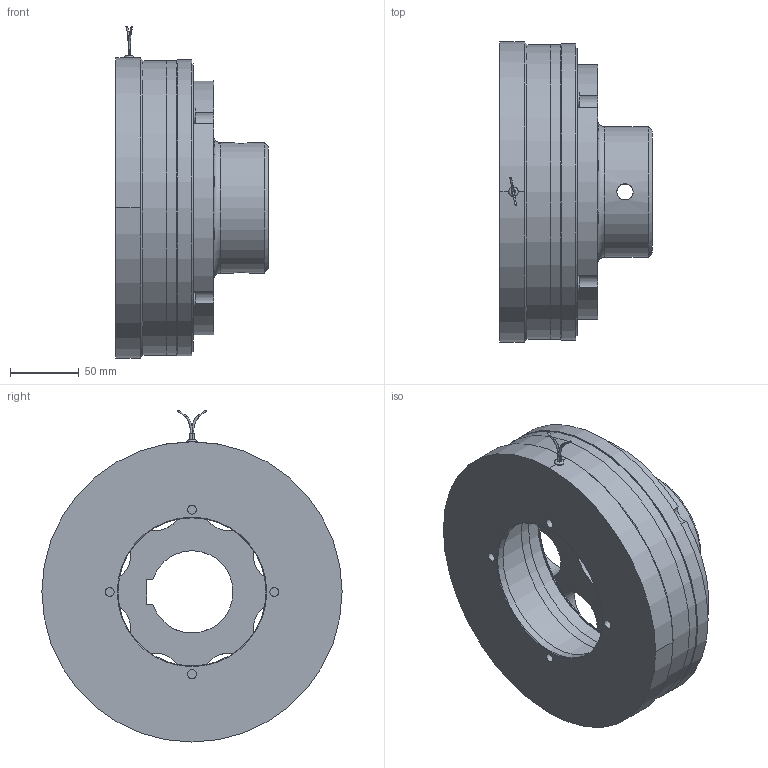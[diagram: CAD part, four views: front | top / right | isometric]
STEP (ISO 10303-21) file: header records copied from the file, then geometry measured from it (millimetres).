
FILE_DESCRIPTION(/* description */ (''),/* implementation_level */ '2;1');
FILE_NAME(/* name */ 'X:\INVENTOR\DISEGNI\08_Freni_Friz_Elettmag_Monodisco\08_28 EMFL_DF\EMFL_DF STEP\08_28_210_12 EMFL210_DF-C-ME@STEP.stp',/* time_stamp */ '2018-04-23T10:48:22+02:00',/* author */ ('stefano'),/* organization */ (''),/* preprocessor_version */ 'ST-DEVELOPER v17',/* originating_system */ 'Autodesk Inventor 2018',/* authorisation */ '');
FILE_SCHEMA (('AUTOMOTIVE_DESIGN { 1 0 10303 214 3 1 1 }'));
Length unit declared in the file: millimetre
Products named in the file (1): 08_28_210_12 EMFL210_DF-C-ME_Substitute_1
Bounding box: 111.5 x 219 x 242.22 mm (x, y, z)
Volume: 1423384.4 mm3; surface area: 310448.2 mm2
Topology: 1 solids, 1 shells, 359 faces, 1175 edges, 752 vertices
Faces by surface type: cylinder 201, plane 111, cone 35, torus 10, bspline 2
Full cylindrical faces by diameter (mm): 1.154 x2, 6.5 x4, 6.647 x4, 7 x8, 11 x8, 11.835 x2, 13 x16, 38 x8, 95 x1, 108 x1, 132 x2, 134 x1, 136 x1, 154.5 x1, 164 x2, 192 x2, 198.5 x1, 210 x1, 215 x2, 216 x1
Entity records: 14556 total; most frequent: CARTESIAN_POINT 3167, DIRECTION 2580, ORIENTED_EDGE 2334, EDGE_CURVE 1167, AXIS2_PLACEMENT_3D 1136, CIRCLE 778, VERTEX_POINT 752, EDGE_LOOP 439
